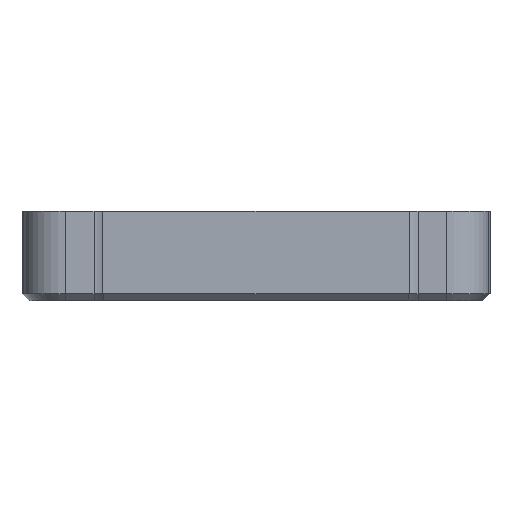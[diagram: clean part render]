
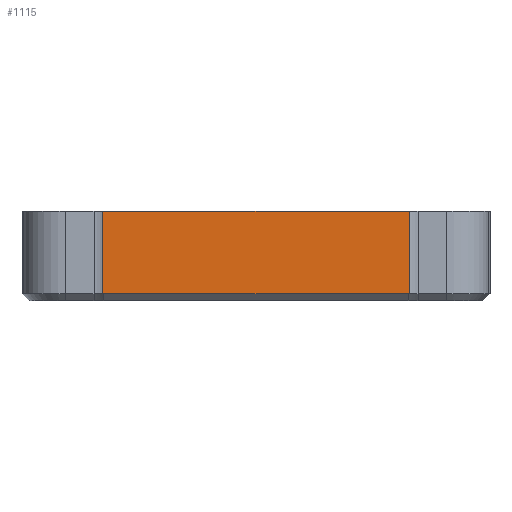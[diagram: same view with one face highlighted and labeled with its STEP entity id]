
A CAD part, front view. The second image highlights one B-rep face of the part: STEP entity #1115.
In plain terms, the highlighted planar face has unit normal (0, -1, 0).
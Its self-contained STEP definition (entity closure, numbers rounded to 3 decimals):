
#52 = EDGE_CURVE ( 'NONE', #426, #1242, #826, .T. ) ;
#94 = CARTESIAN_POINT ( 'NONE',  ( 42.502, -65., 32. ) ) ;
#103 = ORIENTED_EDGE ( 'NONE', *, *, #486, .F. ) ;
#152 = CARTESIAN_POINT ( 'NONE',  ( 42.502, -65., 2. ) ) ;
#168 = CARTESIAN_POINT ( 'NONE',  ( -53., -65., 25. ) ) ;
#221 = EDGE_LOOP ( 'NONE', ( #1483, #1533, #103, #1132 ) ) ;
#229 = VERTEX_POINT ( 'NONE', #1066 ) ;
#322 = VECTOR ( 'NONE', #425, 1000. ) ;
#346 = CARTESIAN_POINT ( 'NONE',  ( -42.502, -65., 25. ) ) ;
#356 = DIRECTION ( 'NONE',  ( 0., 0., -1. ) ) ;
#357 = EDGE_CURVE ( 'NONE', #426, #229, #1159, .T. ) ;
#411 = DIRECTION ( 'NONE',  ( 1., 0., 0. ) ) ;
#425 = DIRECTION ( 'NONE',  ( 1., 0., 0. ) ) ;
#426 = VERTEX_POINT ( 'NONE', #346 ) ;
#486 = EDGE_CURVE ( 'NONE', #1242, #593, #1174, .T. ) ;
#505 = CARTESIAN_POINT ( 'NONE',  ( 42.502, -65., 25. ) ) ;
#537 = CARTESIAN_POINT ( 'NONE',  ( 42.502, -65., 2. ) ) ;
#579 = DIRECTION ( 'NONE',  ( 1., 0., 0. ) ) ;
#593 = VERTEX_POINT ( 'NONE', #152 ) ;
#626 = DIRECTION ( 'NONE',  ( 0., 0., -1. ) ) ;
#740 = CARTESIAN_POINT ( 'NONE',  ( -42.502, -65., 32. ) ) ;
#753 = VECTOR ( 'NONE', #411, 1000. ) ;
#803 = VECTOR ( 'NONE', #356, 1000. ) ;
#811 = AXIS2_PLACEMENT_3D ( 'NONE', #1390, #1616, #579 ) ;
#826 = LINE ( 'NONE', #168, #753 ) ;
#865 = PLANE ( 'NONE',  #811 ) ;
#1054 = VECTOR ( 'NONE', #626, 1000. ) ;
#1066 = CARTESIAN_POINT ( 'NONE',  ( -42.502, -65., 2. ) ) ;
#1115 = ADVANCED_FACE ( 'NONE', ( #1653 ), #865, .F. ) ;
#1132 = ORIENTED_EDGE ( 'NONE', *, *, #52, .F. ) ;
#1159 = LINE ( 'NONE', #740, #1054 ) ;
#1174 = LINE ( 'NONE', #94, #803 ) ;
#1226 = LINE ( 'NONE', #537, #322 ) ;
#1242 = VERTEX_POINT ( 'NONE', #505 ) ;
#1390 = CARTESIAN_POINT ( 'NONE',  ( -42.502, -65., 32. ) ) ;
#1470 = EDGE_CURVE ( 'NONE', #229, #593, #1226, .T. ) ;
#1483 = ORIENTED_EDGE ( 'NONE', *, *, #357, .T. ) ;
#1533 = ORIENTED_EDGE ( 'NONE', *, *, #1470, .T. ) ;
#1616 = DIRECTION ( 'NONE',  ( 0., 1., 0. ) ) ;
#1653 = FACE_OUTER_BOUND ( 'NONE', #221, .T. ) ;
